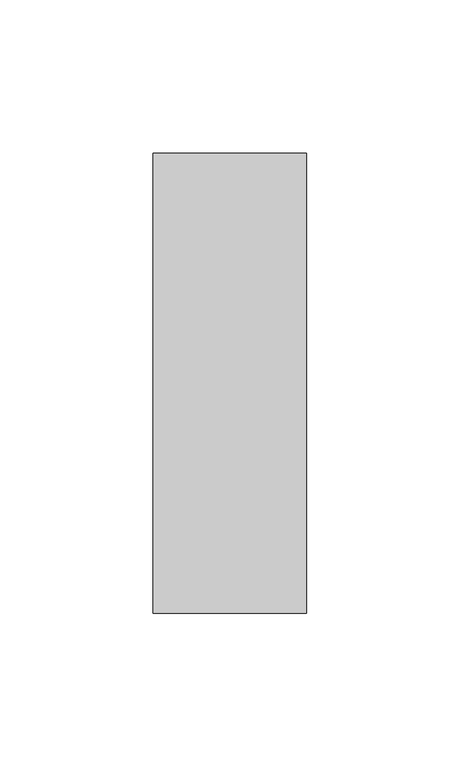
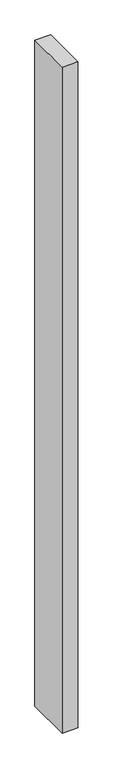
"""IFC4 building model written with IfcOpenShell, lengths in millimetres: member geometry, Прямоугольный импост : 50х150мм."""

from ifc_helpers import new_model, si_unit, frame, origin, place, context, project, spatial, polyline, outline, extrude, source, transform, mapped, element, save


def member_be3fdc0c(model_context):
    return source(origin(), model_context, "Body", "SweptSolid", [
        extrude(outline(polyline([(25.0, 75.0), (25.0, -75.0), (-25.0, -75.0), (-25.0, 75.0), (25.0, 75.0)])), frame((0.0, 0.0, -2240.0), z_axis=(0.0, 0.0, 1.0), x_axis=(1.0, 0.0, 0.0)), (0.0, 0.0, 1.0), 2240.0),
    ])


if __name__ == "__main__":
    model = new_model("IFC4")
    model_context = context("Model", 3, world=origin())
    ifc_project = project(units=[si_unit("LENGTHUNIT", "METRE", prefix="MILLI")], contexts=[model_context])
    site = spatial("IfcSite", under=ifc_project)
    building = spatial("IfcBuilding", under=site)
    placement = place(None, origin())
    member_shape = member_be3fdc0c(model_context)
    element("IfcMember", 1, ObjectType="Прямоугольный импост : 50х150мм", at=placement, inside=building, context=model_context, shape_type="MappedRepresentation", body=[
        mapped(member_shape, transform((0.0, 0.0, 0.0), x_axis=(1.0, 0.0, 0.0), y_axis=(0.0, 1.0, 0.0), z_axis=(0.0, 0.0, 1.0))),
    ])
    save(model, "model.ifc")
